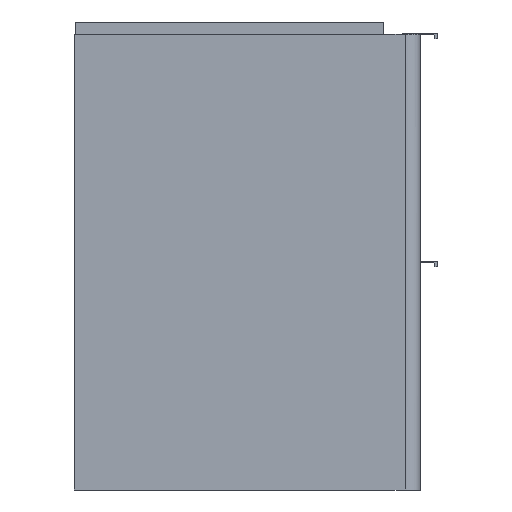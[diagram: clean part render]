
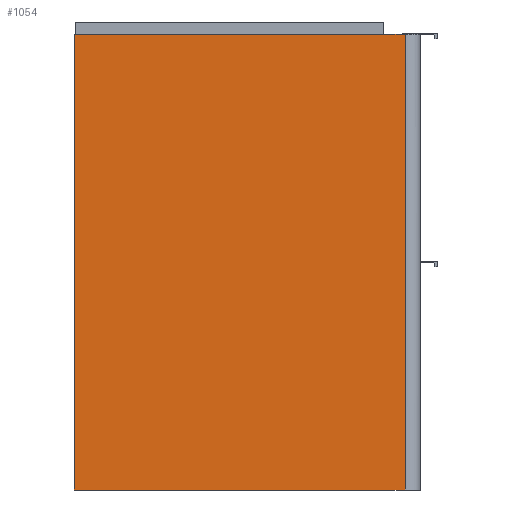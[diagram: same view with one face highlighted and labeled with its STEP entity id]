
A CAD part, left-side view. The second image highlights one B-rep face of the part: STEP entity #1054.
In plain terms, the highlighted planar face has unit normal (-1, 0, 0).
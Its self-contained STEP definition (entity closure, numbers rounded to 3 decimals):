
#1054=ADVANCED_FACE('',(#1649),#10891,.T.);
#1649=FACE_OUTER_BOUND('',#2338,.T.);
#2338=EDGE_LOOP('',(#5717,#5718,#5719,#5720));
#5717=ORIENTED_EDGE('',*,*,#7490,.F.);
#5718=ORIENTED_EDGE('',*,*,#7497,.T.);
#5719=ORIENTED_EDGE('',*,*,#7498,.T.);
#5720=ORIENTED_EDGE('',*,*,#7493,.T.);
#7490=EDGE_CURVE('',#10433,#10434,#8776,.T.);
#7493=EDGE_CURVE('',#10436,#10434,#8778,.T.);
#7497=EDGE_CURVE('',#10433,#10439,#8782,.T.);
#7498=EDGE_CURVE('',#10439,#10436,#8783,.T.);
#8776=B_SPLINE_CURVE_WITH_KNOTS('',1,(#20342,#20343),.UNSPECIFIED.,.F.,
 .F.,(2,2),(0.,515.),.UNSPECIFIED.);
#8778=B_SPLINE_CURVE_WITH_KNOTS('',1,(#20349,#20350),.UNSPECIFIED.,.F.,
 .F.,(2,2),(-374.,0.),.UNSPECIFIED.);
#8782=B_SPLINE_CURVE_WITH_KNOTS('',1,(#20357,#20358),.UNSPECIFIED.,.F.,
 .F.,(2,2),(-374.,0.),.UNSPECIFIED.);
#8783=B_SPLINE_CURVE_WITH_KNOTS('',1,(#20359,#20360),.UNSPECIFIED.,.F.,
 .F.,(2,2),(-515.,0.),.UNSPECIFIED.);
#10433=VERTEX_POINT('',#20330);
#10434=VERTEX_POINT('',#20331);
#10436=VERTEX_POINT('',#20333);
#10439=VERTEX_POINT('',#20336);
#10891=PLANE('',#12003);
#12003=AXIS2_PLACEMENT_3D('',#20324,#12572,$);
#12572=DIRECTION('',(-1.,0.,0.));
#20324=CARTESIAN_POINT('',(-216.25,233.02,-51.62));
#20330=CARTESIAN_POINT('',(-216.25,-178.5,515.));
#20331=CARTESIAN_POINT('',(-216.25,-178.5,0.));
#20333=CARTESIAN_POINT('',(-216.25,195.5,0.));
#20336=CARTESIAN_POINT('',(-216.25,195.5,515.));
#20342=CARTESIAN_POINT('',(-216.25,-178.5,515.));
#20343=CARTESIAN_POINT('',(-216.25,-178.5,0.));
#20349=CARTESIAN_POINT('',(-216.25,195.5,0.));
#20350=CARTESIAN_POINT('',(-216.25,-178.5,0.));
#20357=CARTESIAN_POINT('',(-216.25,-178.5,515.));
#20358=CARTESIAN_POINT('',(-216.25,195.5,515.));
#20359=CARTESIAN_POINT('',(-216.25,195.5,515.));
#20360=CARTESIAN_POINT('',(-216.25,195.5,0.));
